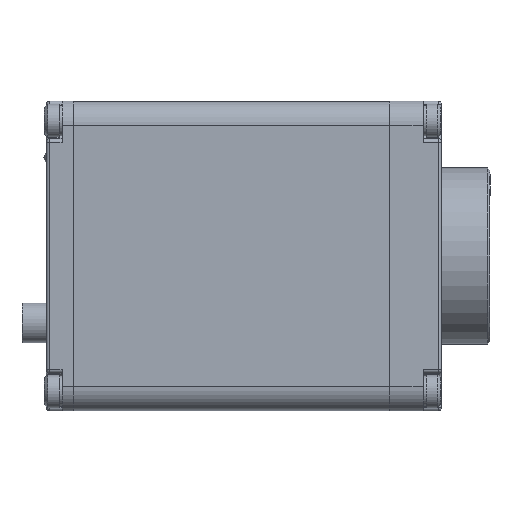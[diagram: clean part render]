
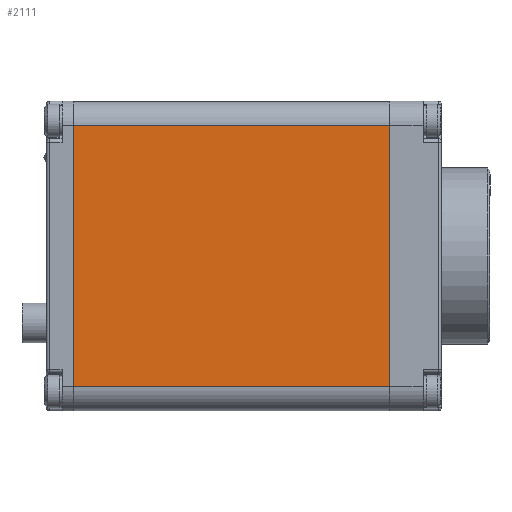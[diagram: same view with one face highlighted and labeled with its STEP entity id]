
A CAD part, left-side view. The second image highlights one B-rep face of the part: STEP entity #2111.
In plain terms, the highlighted planar face has unit normal (-1, 0, 0).
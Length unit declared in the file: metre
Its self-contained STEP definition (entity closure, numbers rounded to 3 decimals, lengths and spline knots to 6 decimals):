
#2111=ADVANCED_FACE('1:23697',(#5190),#5191,.T.);
#2775=EDGE_CURVE('1:26157',#6150,#6153,#6154,.T.);
#3375=EDGE_CURVE('1:26154',#6949,#6950,#6951,.T.);
#3529=EDGE_CURVE('1:25218',#6153,#6950,#7139,.T.);
#3797=EDGE_CURVE('1:25224',#6949,#6150,#7454,.T.);
#5190=FACE_OUTER_BOUND('',#9190,.T.);
#5191=PLANE('',#9191);
#6150=VERTEX_POINT('',#10647);
#6153=VERTEX_POINT('',#10651);
#6154=LINE('',#10652,#10653);
#6949=VERTEX_POINT('',#11957);
#6950=VERTEX_POINT('',#11958);
#6951=LINE('',#11959,#11960);
#7139=LINE('',#12282,#12283);
#7454=LINE('',#12824,#12825);
#9190=EDGE_LOOP('',(#16195,#16196,#16197,#16198));
#9191=AXIS2_PLACEMENT_3D('',#16199,#16200,#16201);
#10647=CARTESIAN_POINT('',(-0.025487,0.030805,0.003988));
#10651=CARTESIAN_POINT('',(-0.025487,0.030805,0.046888));
#10652=CARTESIAN_POINT('',(-0.025487,0.030805,0.025447));
#10653=VECTOR('',#16914,1.0);
#11957=CARTESIAN_POINT('',(-0.025487,-0.021195,0.003988));
#11958=CARTESIAN_POINT('',(-0.025487,-0.021195,0.046888));
#11959=CARTESIAN_POINT('',(-0.025487,-0.021195,0.050888));
#11960=VECTOR('',#17394,1.0);
#12282=CARTESIAN_POINT('',(-0.025487,0.030805,0.046888));
#12283=VECTOR('',#17509,1.0);
#12824=CARTESIAN_POINT('',(-0.025487,0.030805,0.003988));
#12825=VECTOR('',#17725,1.0);
#16195=ORIENTED_EDGE('',*,*,#3797,.F.);
#16196=ORIENTED_EDGE('',*,*,#3375,.T.);
#16197=ORIENTED_EDGE('',*,*,#3529,.F.);
#16198=ORIENTED_EDGE('',*,*,#2775,.F.);
#16199=CARTESIAN_POINT('',(-0.025487,0.030805,0.025438));
#16200=DIRECTION('',(-1.0,-0.0,0.0));
#16201=DIRECTION('',(0.0,0.0,1.0));
#16914=DIRECTION('',(0.0,0.,1.0));
#17394=DIRECTION('',(0.0,0.,1.0));
#17509=DIRECTION('',(0.0,-1.0,0.));
#17725=DIRECTION('',(0.0,1.0,0.));
